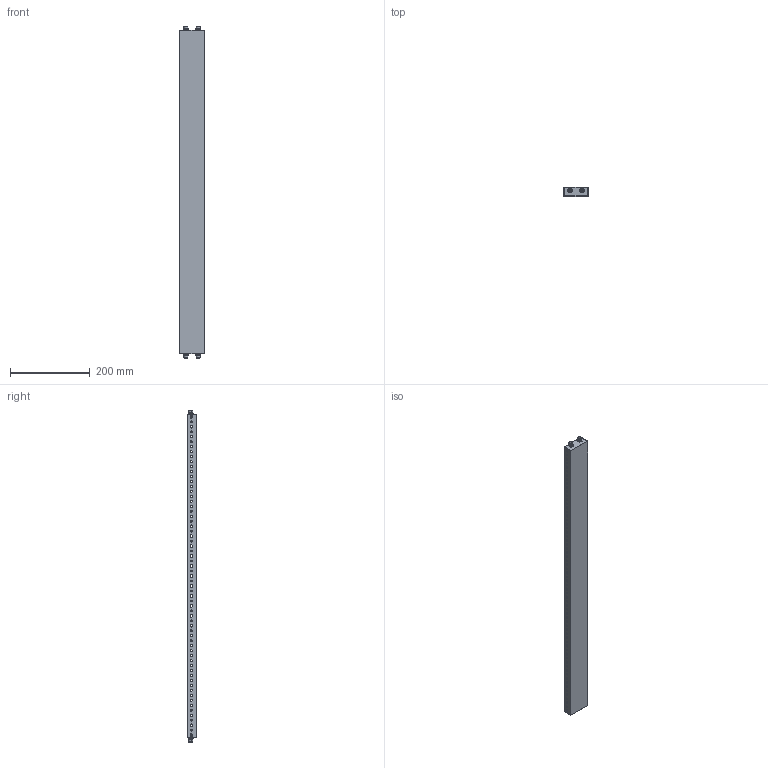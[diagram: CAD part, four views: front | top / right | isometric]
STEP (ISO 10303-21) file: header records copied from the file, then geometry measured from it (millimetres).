
FILE_DESCRIPTION(('Open CASCADE Model'),'2;1');
FILE_NAME('Open CASCADE Shape Model','2025-02-28T14:45:31',('Author'),( 'Open CASCADE'),'Open CASCADE STEP processor 7.8','Open CASCADE 7.8' ,'Unknown');
FILE_SCHEMA(('AUTOMOTIVE_DESIGN { 1 0 10303 214 1 1 1 1 }'));
Length unit declared in the file: millimetre
Products named in the file (5): Compound1; Solid1; Solid2; Solid3; Solid4
Assembly tree (13 placements, depth 2):
  Compound1
    Solid1
    Solid2  x4
    Solid3  x4
    Solid4  x4
Bounding box: 60.5 x 23 x 834.2 mm (x, y, z)
Volume: 130917.3 mm3; surface area: 180532.8 mm2
Topology: 13 solids, 13 shells, 874 faces, 2468 edges, 1612 vertices
Faces by surface type: cylinder 500, plane 326, cone 32, torus 16
Entity records: 15568 total; most frequent: CARTESIAN_POINT 2808, DIRECTION 2766, ORIENTED_EDGE 2544, EDGE_CURVE 1272, AXIS2_PLACEMENT_3D 1093, VERTEX_POINT 841, FACE_BOUND 715, EDGE_LOOP 715
